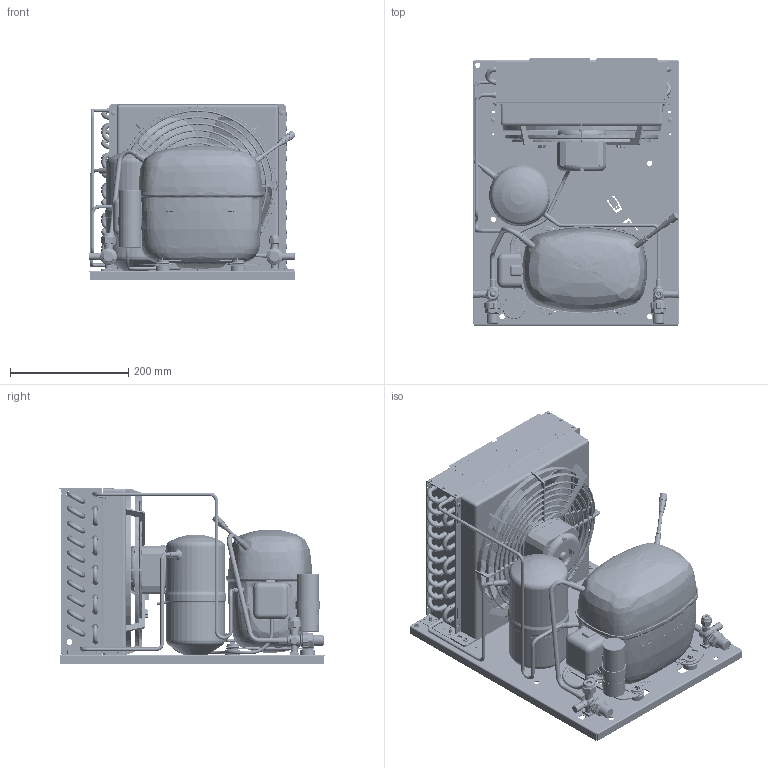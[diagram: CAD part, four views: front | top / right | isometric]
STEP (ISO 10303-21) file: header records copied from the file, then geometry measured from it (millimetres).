
FILE_DESCRIPTION(/* description */ ('Unknown'),/* implementation_level */ '2;1');
FILE_NAME(/* name */ '2298-0044',/* time_stamp */ '2022-01-10T14:02:59+01:00',/* author */ ('Unknown'),/* organization */ ('Unknown'),/* preprocessor_version */ 'ST-DEVELOPER v16.7',/* originating_system */ 'Solid Edge',/* authorisation */ 'Unknown');
FILE_SCHEMA (('AUTOMOTIVE_DESIGN {1 0 10303 214 3 1 1}'));
Products named in the file (44): 2298-0044; 92505122_oa_0; 1130270f70; r50112006; r50112007; 2990210; r59700314; r50112001; r50004308; 99000000_piccola; cg254n; 84fm8x12xxxteff00; 6062_22M6; A254-22; 6072_23M8; 100_200vs00; 84DM8X6.9XXESRF00; 7210-0003; 84RM10X21XXPIAF00; 118-3661; 118-7353; 8392_A; 7560_3; 7030_3m10; 7560_2; 7010_22; 99510255; 8351_2; 99510255_Tubo; 84a4.2x9.5xtbcf01; 84t4.8x8xxxtcca00_oa_1; 84t4.8x8xxxtcca00_oa_2; 84t4.8x8xxxtcca00_oa_3; 84t4.8x8xxxtcca00_oa_4; 6804-0552; 680063698; 84dm4x3.6xxesrf00; 99000082_secop; 6803-1243; 6803-1244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
Assembly tree (92 placements, depth 3):
  2298-0044
    92505122_oa_0
    1130270f70
      r50112006
      r50112007
      2990210  x15
      r59700314  x16
      r50112001
      r50004308
      99000000_piccola
    cg254n
    84fm8x12xxxteff00  x2
    6062_22M6
    A254-22
    6072_23M8
    100_200vs00
    84DM8X6.9XXESRF00
    7210-0003  x3
    84RM10X21XXPIAF00  x4
    118-3661  x4
    118-7353  x4
    8392_A  x2
    7560_3
    7030_3m10
    7560_2
    7010_22
    99510255
      8351_2
      99510255_Tubo
      8392_A
    84a4.2x9.5xtbcf01  x4
    84t4.8x8xxxtcca00_oa_1
    84t4.8x8xxxtcca00_oa_2
    84t4.8x8xxxtcca00_oa_3
    84t4.8x8xxxtcca00_oa_4
    6804-0552
    680063698
    84dm4x3.6xxesrf00  x4
    99000082_secop
    6803-1243
    6803-1244
    SC10MLX-A-CSIR
    NET3T16PVN018
    99000082_SECOP_F-GAS
    2298-0044_CAVO_VENTOLA
Bounding box: 350.55 x 452 x 297.62 mm (x, y, z)
Volume: 5510066 mm3; surface area: 2541020 mm2
Topology: 97 solids, 109 shells, 8138 faces, 20673 edges, 13308 vertices
Faces by surface type: plane 4721, cylinder 1277, bspline 1216, cone 484, torus 410, sphere 30
Full cylindrical faces by diameter (mm): 1 x3, 1.2 x6, 2 x20, 2.2 x8, 2.31 x6, 2.7 x4, 3 x8, 3.2 x2, 3.242 x4, 3.3 x3, 3.4 x4, 3.5 x16, 3.6 x4, 3.7 x6, 3.85 x2, 4 x18, 4.2 x18, 4.3 x1, 4.4 x6, 4.5 x6, 4.6 x1, 4.66 x5, 4.7 x4, 4.95 x1, 5 x17, 5.2 x1, 5.4 x6, 5.5 x19, 5.6 x2, 6 x21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
Entity records: 330077 total; most frequent: CARTESIAN_POINT 140426, ORIENTED_EDGE 35374, DIRECTION 25608, EDGE_CURVE 17752, VERTEX_POINT 11996, FACE_BOUND 9680, EDGE_LOOP 9678, AXIS2_PLACEMENT_3D 9161
